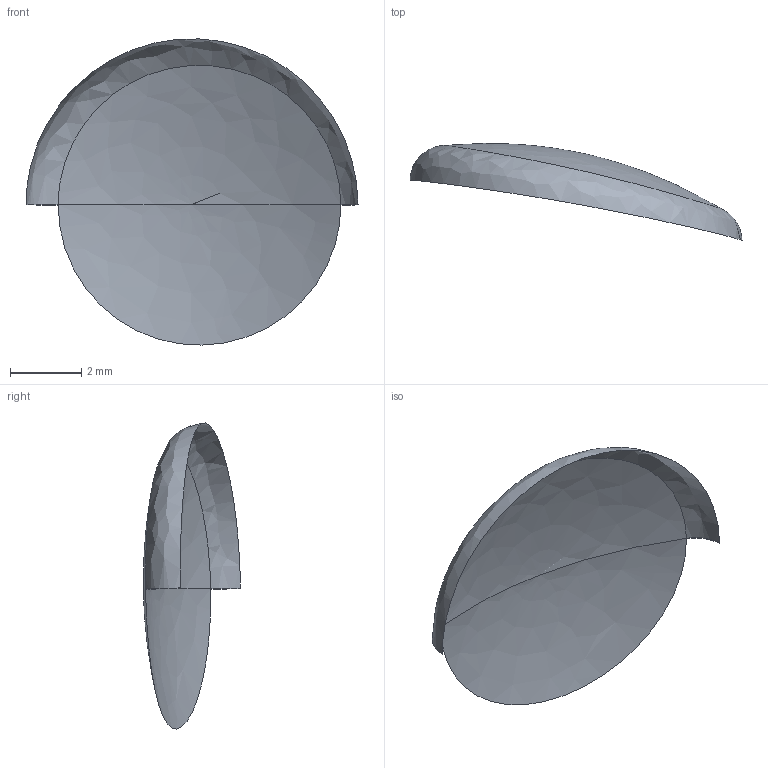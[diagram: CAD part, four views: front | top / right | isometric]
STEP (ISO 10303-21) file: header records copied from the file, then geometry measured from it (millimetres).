
FILE_DESCRIPTION(('BRL-CAD AP203 SC loop vertex-star regression fixture'),'2;1');
FILE_NAME('ap203_sc_loop_vertex_star_guard.stp','2026-07-24T00:00:00',('BRL-CAD'),('BRL-CAD'),'','','');
FILE_SCHEMA(('CONFIG_CONTROL_DESIGN'));
Length unit declared in the file: millimetre
Products named in the file (1): sc_loop_vertex_star
Bounding box: 9.35 x 2.73 x 8.62 mm (x, y, z)
Surface area: 69.5 mm2 (no closed solid volume)
Topology: 0 solids, 1 shells, 5 faces, 15 edges, 9 vertices
Faces by surface type: bspline 5
Entity records: 453 total; most frequent: CARTESIAN_POINT 354, ORIENTED_EDGE 20, EDGE_CURVE 13, B_SPLINE_CURVE_WITH_KNOTS 9, VERTEX_POINT 9, DIRECTION 8, EDGE_LOOP 5, FACE_OUTER_BOUND 5
